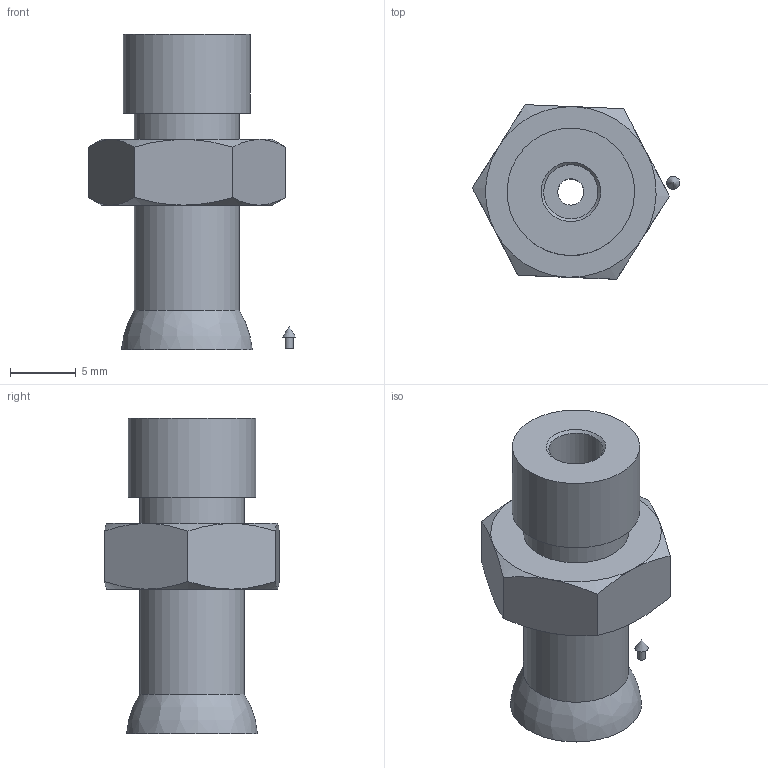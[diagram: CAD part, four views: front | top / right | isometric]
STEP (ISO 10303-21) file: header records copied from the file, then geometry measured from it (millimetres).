
FILE_DESCRIPTION(('STEP AP214'),'1');
FILE_NAME('KIT.08.03.D10.9.stp','2019-05-27T09:56:30',(' '),(' '),'Spatial InterOp 3D',' ',' ');
FILE_SCHEMA(('AUTOMOTIVE_DESIGN { 1 0 10303 214 1 1 1 1 }'));
Length unit declared in the file: millimetre
Products named in the file (5): KIT.08.03.D10.9; CA.08.09.009; CA.08.03.003
Assembly tree (4 placements, depth 3):
  KIT.08.03.D10.9
    CA.08.09.009
    (unnamed)
      CA.08.03.003
      CA.08.03.003
Bounding box: 15.78 x 13.3 x 24 mm (x, y, z)
Volume: 1602.4 mm3; surface area: 1634.4 mm2
Topology: 3 solids, 3 shells, 46 faces, 87 edges, 54 vertices
Faces by surface type: plane 19, cone 18, cylinder 8, bspline 1
Full cylindrical faces by diameter (mm): 0.6 x1, 2 x1, 4 x1, 4.134 x1, 4.5 x1, 8 x2, 9.7 x1
Entity records: 1607 total; most frequent: CARTESIAN_POINT 294, DIRECTION 184, ORIENTED_EDGE 136, AXIS2_PLACEMENT_3D 89, EDGE_LOOP 72, EDGE_CURVE 68, FACE_OUTER_BOUND 55, VERTEX_POINT 51
